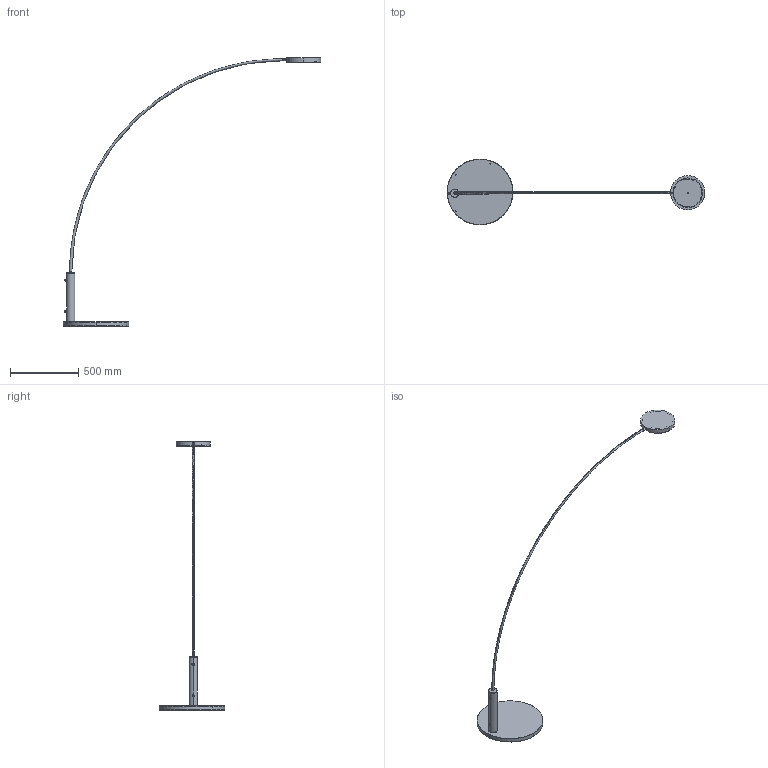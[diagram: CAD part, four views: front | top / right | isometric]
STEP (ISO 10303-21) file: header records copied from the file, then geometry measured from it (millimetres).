
FILE_DESCRIPTION(/* description */ (''),/* implementation_level */ '2;1');
FILE_NAME(/* name */ 'T085__~1',/* time_stamp */ '2024-07-01T15:00:09+02:00',/* author */ (''),/* organization */ (''),/* preprocessor_version */ 'ST-DEVELOPER v16.5',/* originating_system */ '',/* authorisation */ '');
FILE_SCHEMA (('AUTOMOTIVE_DESIGN'));
Length unit declared in the file: millimetre
Products named in the file (1): Document
Bounding box: 1881.82 x 480 x 1959.5 mm (x, y, z)
Volume: 7384348.4 mm3; surface area: 1361063.9 mm2
Topology: 23 solids, 23 shells, 596 faces, 1426 edges, 885 vertices
Faces by surface type: bspline 395, plane 201
Entity records: 28047 total; most frequent: CARTESIAN_POINT 19390, ORIENTED_EDGE 2826, EDGE_CURVE 1413, VERTEX_POINT 885, B_SPLINE_CURVE_WITH_KNOTS 728, EDGE_LOOP 642, ADVANCED_FACE 596, FACE_OUTER_BOUND 596
